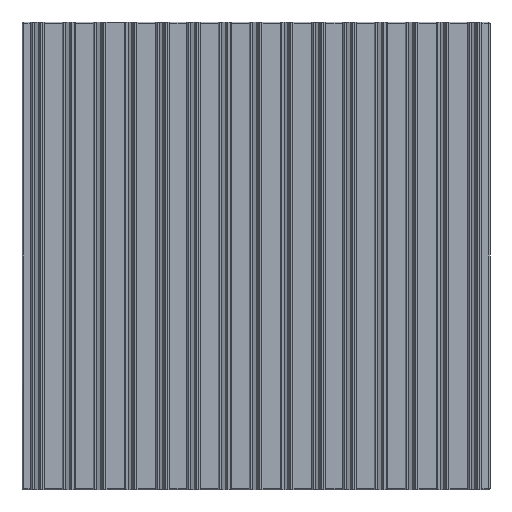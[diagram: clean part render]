
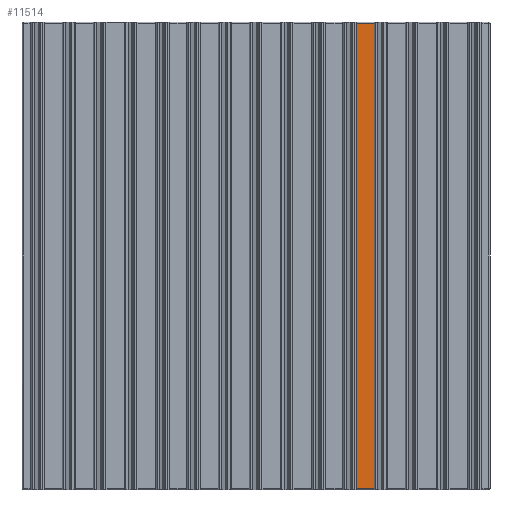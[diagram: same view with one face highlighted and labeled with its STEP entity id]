
A CAD part, front view. The second image highlights one B-rep face of the part: STEP entity #11514.
In plain terms, the highlighted planar face has unit normal (0, -1, 0).
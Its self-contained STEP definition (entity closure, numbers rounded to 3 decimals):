
#395=PLANE('',#12239);
#978=FACE_OUTER_BOUND('',#1577,.T.);
#1577=EDGE_LOOP('',(#10225,#10226,#10227,#10228));
#2163=LINE('',#16208,#3698);
#2166=LINE('',#16217,#3701);
#2756=LINE('',#17527,#4291);
#2757=LINE('',#17529,#4292);
#3698=VECTOR('',#12863,10.);
#3701=VECTOR('',#12872,10.);
#4291=VECTOR('',#13770,10.);
#4292=VECTOR('',#13773,10.);
#5314=VERTEX_POINT('',#16205);
#5315=VERTEX_POINT('',#16207);
#5318=VERTEX_POINT('',#16215);
#5884=VERTEX_POINT('',#17525);
#6431=EDGE_CURVE('',#5314,#5315,#2163,.T.);
#6436=EDGE_CURVE('',#5314,#5318,#2166,.T.);
#7109=EDGE_CURVE('',#5884,#5318,#2756,.T.);
#7110=EDGE_CURVE('',#5315,#5884,#2757,.T.);
#10225=ORIENTED_EDGE('',*,*,#6431,.F.);
#10226=ORIENTED_EDGE('',*,*,#6436,.T.);
#10227=ORIENTED_EDGE('',*,*,#7109,.F.);
#10228=ORIENTED_EDGE('',*,*,#7110,.F.);
#11514=ADVANCED_FACE('',(#978),#395,.T.);
#12239=AXIS2_PLACEMENT_3D('',#18423,#14844,#14845);
#12863=DIRECTION('',(-1.,0.,0.));
#12872=DIRECTION('',(0.,0.,1.));
#13770=DIRECTION('',(1.,0.,0.));
#13773=DIRECTION('',(0.,0.,1.));
#14844=DIRECTION('center_axis',(0.,-1.,0.));
#14845=DIRECTION('ref_axis',(1.,0.,0.));
#16205=CARTESIAN_POINT('',(107.95,-5.,0.5));
#16207=CARTESIAN_POINT('',(102.05,-5.,0.5));
#16208=CARTESIAN_POINT('',(51.025,-5.,0.5));
#16215=CARTESIAN_POINT('',(107.95,-5.,149.5));
#16217=CARTESIAN_POINT('',(107.95,-5.,10.));
#17525=CARTESIAN_POINT('',(102.05,-5.,149.5));
#17527=CARTESIAN_POINT('',(51.025,-5.,149.5));
#17529=CARTESIAN_POINT('',(102.05,-5.,0.));
#18423=CARTESIAN_POINT('Origin',(102.05,-5.,0.));
